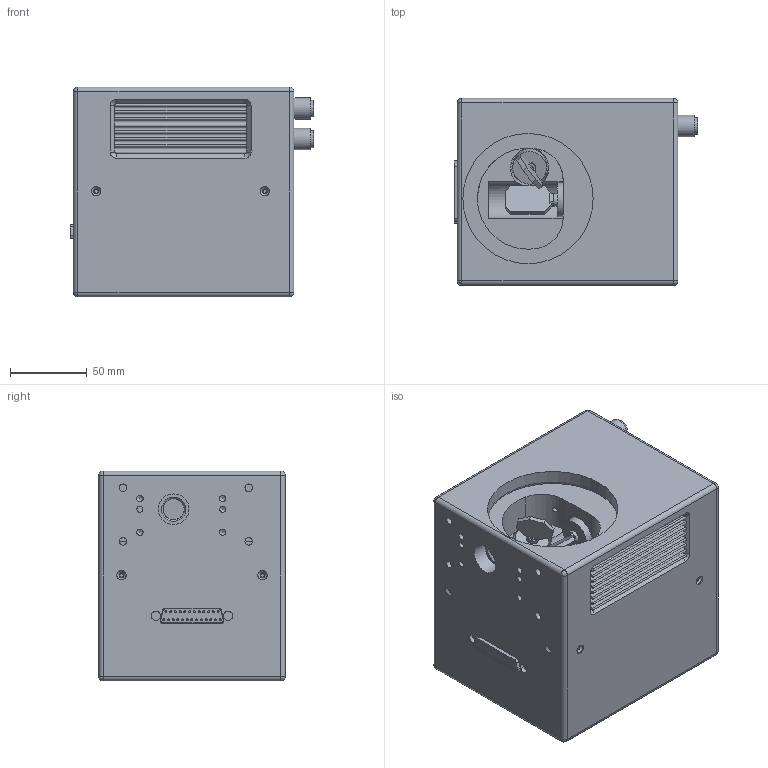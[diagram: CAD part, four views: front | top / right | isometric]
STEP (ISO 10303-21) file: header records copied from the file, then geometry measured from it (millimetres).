
FILE_DESCRIPTION( ( 'Unknown' ), '1' );
FILE_NAME( 'C:/Users/guow115776/Desktop/錨璃3.stp', 'Unknown', ( 'Unknown' ), ( 'Unknown' ), 'XStep 1.0', 'Unknown', ' ' );
FILE_SCHEMA( ( 'automotive_design' ) );
Length unit declared in the file: millimetre
Products named in the file (1): 14
Bounding box: 159.1 x 122 x 137 mm (x, y, z)
Volume: 2153132.3 mm3; surface area: 187024 mm2
Topology: 1 solids, 15 shells, 598 faces, 1419 edges, 912 vertices
Faces by surface type: plane 319, cylinder 225, cone 46, sphere 8
Full cylindrical faces by diameter (mm): 0.268 x1, 0.432 x1, 1.3 x25, 2.013 x8, 2.459 x9, 3.2 x8, 3.242 x8, 3.5 x4, 4 x2, 4.134 x4, 4.917 x4, 6 x17, 8 x5, 9.147 x7, 11 x2, 13.8 x1, 14 x2, 20 x1, 22 x2, 25 x2, 28 x1, 43 x1, 85 x1, 86.5 x1
Entity records: 20746 total; most frequent: CARTESIAN_POINT 3034, DIRECTION 2808, ORIENTED_EDGE 2314, EDGE_CURVE 1157, AXIS2_PLACEMENT_3D 1083, VERTEX_POINT 833, EDGE_LOOP 830, FACE_OUTER_BOUND 714
